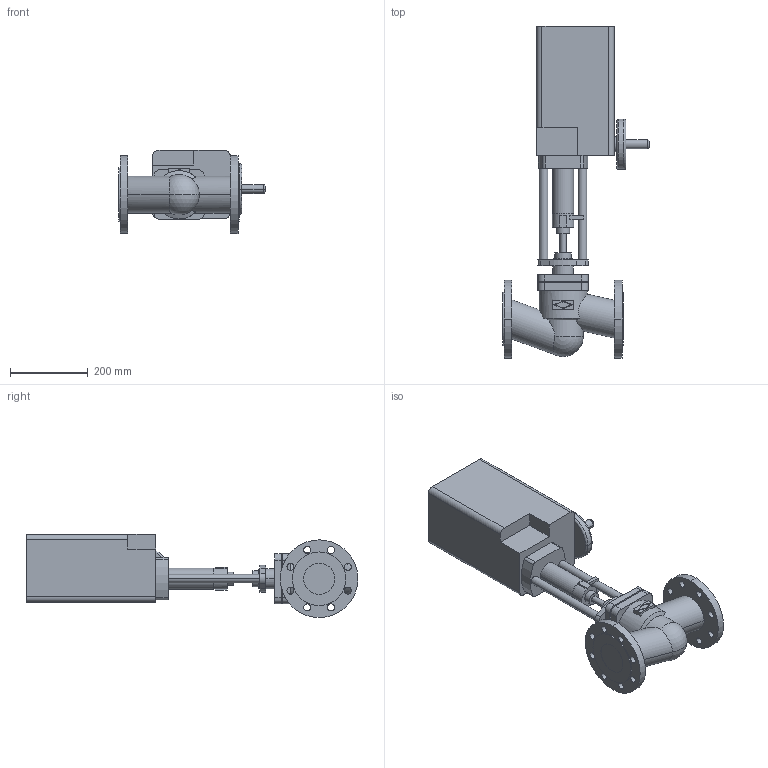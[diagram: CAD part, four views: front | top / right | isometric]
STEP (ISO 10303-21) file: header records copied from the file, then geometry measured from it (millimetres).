
FILE_DESCRIPTION(('OneSpaceDesigner STEP Export'),'2;1');
FILE_NAME('c000001196.stp','2005-01-05T12:53:52',(''),(''),'OneSpace Designer STEP processor (Jan. 2003) for AP203(Solid Model)','OneSpace Designer 12.01D 09-Jul-2004 (C) CoCreate Software GmbH','');
FILE_SCHEMA(('CONFIG_CONTROL_DESIGN'));
Length unit declared in the file: millimetre
Products named in the file (1): 1
Bounding box: 376.6 x 855 x 214 mm (x, y, z)
Volume: 17514234.9 mm3; surface area: 751050.1 mm2
Topology: 1 solids, 1 shells, 189 faces, 479 edges, 317 vertices
Faces by surface type: cylinder 100, plane 79, torus 6, sphere 2, cone 2
Entity records: 5559 total; most frequent: CARTESIAN_POINT 1153, ORIENTED_EDGE 954, DIRECTION 814, EDGE_CURVE 477, VERTEX_POINT 317, AXIS2_PLACEMENT_3D 289, EDGE_LOOP 252, VECTOR 236
